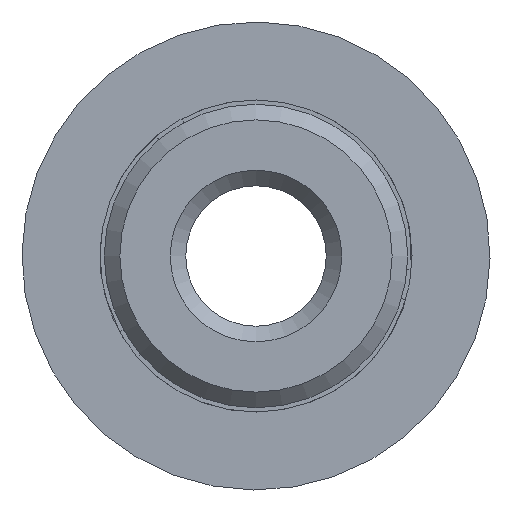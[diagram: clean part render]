
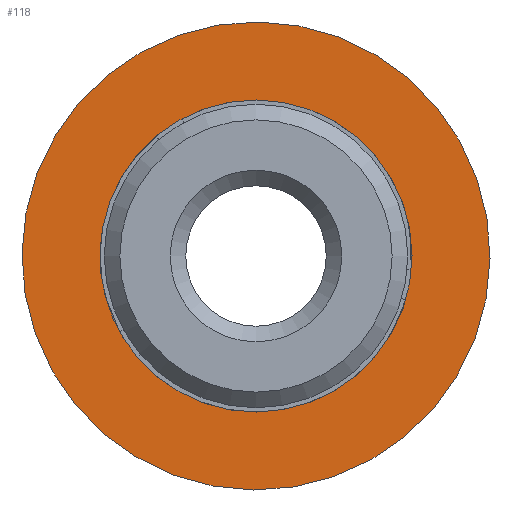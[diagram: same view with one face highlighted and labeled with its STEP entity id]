
A CAD part, left-side view. The second image highlights one B-rep face of the part: STEP entity #118.
In plain terms, the highlighted planar face has unit normal (-1, 0, 0).
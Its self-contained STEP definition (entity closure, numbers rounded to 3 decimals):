
#118=ADVANCED_FACE('',(#229,#230),#231,.T.);
#229=FACE_BOUND('',#361,.T.);
#230=FACE_OUTER_BOUND('',#362,.T.);
#231=PLANE('',#363);
#361=EDGE_LOOP('',(#514));
#362=EDGE_LOOP('',(#515));
#363=AXIS2_PLACEMENT_3D('',#516,#517,#518);
#514=ORIENTED_EDGE('',*,*,#697,.F.);
#515=ORIENTED_EDGE('',*,*,#707,.T.);
#516=CARTESIAN_POINT('',(-1.3,0.0,0.));
#517=DIRECTION('',(-1.0,0.,0.0));
#518=DIRECTION('',(0.,-1.0,0.0));
#697=EDGE_CURVE('',#784,#784,#785,.T.);
#707=EDGE_CURVE('',#801,#801,#802,.T.);
#784=VERTEX_POINT('',#906);
#785=CIRCLE('',#907,5.0);
#801=VERTEX_POINT('',#927);
#802=CIRCLE('',#928,7.5);
#906=CARTESIAN_POINT('',(-1.3,5.0,0.));
#907=AXIS2_PLACEMENT_3D('',#1224,#1225,#1226);
#927=CARTESIAN_POINT('',(-1.3,7.5,0.));
#928=AXIS2_PLACEMENT_3D('',#1243,#1244,#1245);
#1224=CARTESIAN_POINT('',(-1.3,0.0,0.));
#1225=DIRECTION('',(-1.0,0.,0.0));
#1226=DIRECTION('',(0.,1.0,0.0));
#1243=CARTESIAN_POINT('',(-1.3,0.0,0.));
#1244=DIRECTION('',(-1.0,0.,0.0));
#1245=DIRECTION('',(0.,1.0,0.0));
